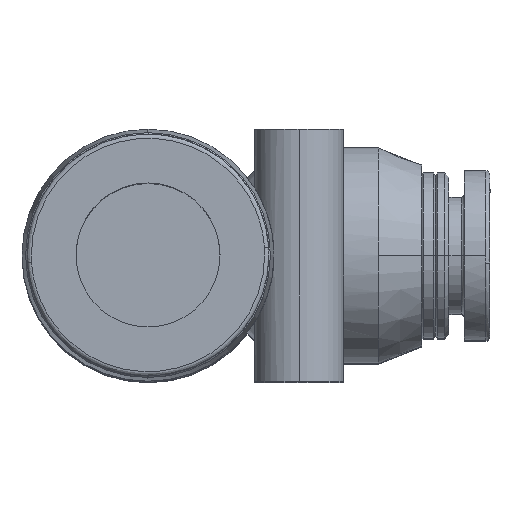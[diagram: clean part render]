
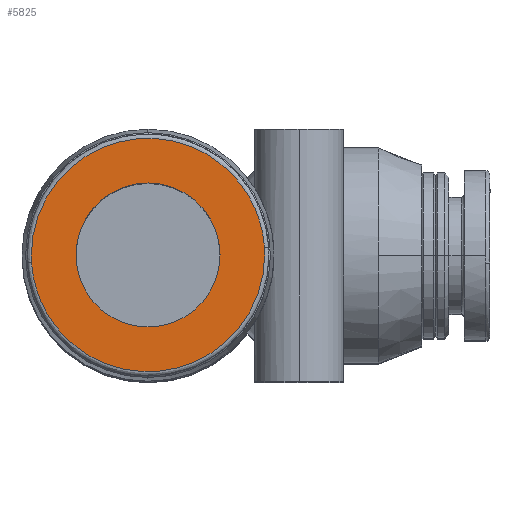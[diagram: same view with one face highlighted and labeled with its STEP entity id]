
A CAD part, top view. The second image highlights one B-rep face of the part: STEP entity #5825.
In plain terms, the highlighted planar face has unit normal (0, 0, 1).
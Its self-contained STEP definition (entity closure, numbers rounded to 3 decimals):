
#34 = DIRECTION ( 'NONE',  ( 1., 0., 0. ) ) ;
#341 = CARTESIAN_POINT ( 'NONE',  ( -8.082, -0.534, 40. ) ) ;
#555 = DIRECTION ( 'NONE',  ( 0., 0., 1. ) ) ;
#617 = CARTESIAN_POINT ( 'NONE',  ( 5., 0., 40. ) ) ;
#631 = CARTESIAN_POINT ( 'NONE',  ( -8.1, 0., 40. ) ) ;
#642 = ORIENTED_EDGE ( 'NONE', *, *, #3544, .F. ) ;
#750 = CARTESIAN_POINT ( 'NONE',  ( 7.081, 15.69, 40. ) ) ;
#932 = ORIENTED_EDGE ( 'NONE', *, *, #6449, .T. ) ;
#1332 =( BOUNDED_CURVE ( )  B_SPLINE_CURVE ( 3, ( #2188, #5015, #6759, #3331 ),
 .UNSPECIFIED., .F., .T. ) 
 B_SPLINE_CURVE_WITH_KNOTS ( ( 4, 4 ),
 ( 0.979, 1. ),
 .UNSPECIFIED. ) 
 CURVE ( )  GEOMETRIC_REPRESENTATION_ITEM ( )  RATIONAL_B_SPLINE_CURVE ( ( 1., 1., 1., 1. ) ) 
 REPRESENTATION_ITEM ( '' )  );
#1622 = CARTESIAN_POINT ( 'NONE',  ( -8.082, -0.534, 40. ) ) ;
#1826 = EDGE_LOOP ( 'NONE', ( #642, #6171, #4415, #2898 ) ) ;
#1854 = VERTEX_POINT ( 'NONE', #341 ) ;
#2178 = CARTESIAN_POINT ( 'NONE',  ( -8.094, -0.356, 40. ) ) ;
#2188 = CARTESIAN_POINT ( 'NONE',  ( 8.082, 0.534, 40. ) ) ;
#2221 = DIRECTION ( 'NONE',  ( 0., 0., -1. ) ) ;
#2238 = ORIENTED_EDGE ( 'NONE', *, *, #5522, .T. ) ;
#2293 = CARTESIAN_POINT ( 'NONE',  ( -5., 0., 40. ) ) ;
#2377 = CARTESIAN_POINT ( 'NONE',  ( -7.081, -15.69, 40. ) ) ;
#2426 = VERTEX_POINT ( 'NONE', #2662 ) ;
#2662 = CARTESIAN_POINT ( 'NONE',  ( 8.1, 0., 40. ) ) ;
#2777 = VERTEX_POINT ( 'NONE', #617 ) ;
#2898 = ORIENTED_EDGE ( 'NONE', *, *, #6399, .F. ) ;
#3306 = DIRECTION ( 'NONE',  ( 0., 0., -1. ) ) ;
#3331 = CARTESIAN_POINT ( 'NONE',  ( 8.1, 0., 40. ) ) ;
#3435 = VERTEX_POINT ( 'NONE', #2293 ) ;
#3460 = CARTESIAN_POINT ( 'NONE',  ( 8.1, 0., 40. ) ) ;
#3544 = EDGE_CURVE ( 'NONE', #2426, #1854, #5036, .T. ) ;
#3738 = FACE_BOUND ( 'NONE', #6238, .T. ) ;
#3801 = VERTEX_POINT ( 'NONE', #4345 ) ;
#3947 = CARTESIAN_POINT ( 'NONE',  ( -8.1, -0.178, 40. ) ) ;
#4058 = CARTESIAN_POINT ( 'NONE',  ( -8.1, 15.189, 40. ) ) ;
#4345 = CARTESIAN_POINT ( 'NONE',  ( 8.082, 0.534, 40. ) ) ;
#4415 = ORIENTED_EDGE ( 'NONE', *, *, #6530, .F. ) ;
#4423 = DIRECTION ( 'NONE',  ( 1., 0., 0. ) ) ;
#4477 = CARTESIAN_POINT ( 'NONE',  ( -8.1, 0., 40. ) ) ;
#4619 = CARTESIAN_POINT ( 'NONE',  ( 8.082, 0.534, 40. ) ) ;
#4980 = CARTESIAN_POINT ( 'NONE',  ( -8.6, 8.6, 40. ) ) ;
#4996 = CIRCLE ( 'NONE', #6917, 5. ) ;
#5015 = CARTESIAN_POINT ( 'NONE',  ( 8.094, 0.356, 40. ) ) ;
#5036 =( BOUNDED_CURVE ( )  B_SPLINE_CURVE ( 3, ( #3460, #6900, #2377, #6350 ),
 .UNSPECIFIED., .F., .F. ) 
 B_SPLINE_CURVE_WITH_KNOTS ( ( 4, 4 ),
 ( 0., 0.979 ),
 .UNSPECIFIED. ) 
 CURVE ( )  GEOMETRIC_REPRESENTATION_ITEM ( )  RATIONAL_B_SPLINE_CURVE ( ( 1., 0.355, 0.355, 1. ) ) 
 REPRESENTATION_ITEM ( '' )  );
#5068 = CIRCLE ( 'NONE', #5782, 5. ) ;
#5077 = FACE_OUTER_BOUND ( 'NONE', #1826, .T. ) ;
#5522 = EDGE_CURVE ( 'NONE', #3435, #2777, #4996, .T. ) ;
#5562 =( BOUNDED_CURVE ( )  B_SPLINE_CURVE ( 3, ( #1622, #2178, #3947, #631 ),
 .UNSPECIFIED., .F., .T. ) 
 B_SPLINE_CURVE_WITH_KNOTS ( ( 4, 4 ),
 ( 0.979, 1. ),
 .UNSPECIFIED. ) 
 CURVE ( )  GEOMETRIC_REPRESENTATION_ITEM ( )  RATIONAL_B_SPLINE_CURVE ( ( 1., 1., 1., 1. ) ) 
 REPRESENTATION_ITEM ( '' )  );
#5602 = CARTESIAN_POINT ( 'NONE',  ( 0., 0., 40. ) ) ;
#5772 = CARTESIAN_POINT ( 'NONE',  ( -8.1, 0., 40. ) ) ;
#5782 = AXIS2_PLACEMENT_3D ( 'NONE', #6750, #3306, #34 ) ;
#5825 = ADVANCED_FACE ( '44', ( #3738, #5077 ), #6740, .T. ) ;
#5836 = EDGE_CURVE ( 'NONE', #3801, #2426, #1332, .T. ) ;
#5870 = VERTEX_POINT ( 'NONE', #4477 ) ;
#6171 = ORIENTED_EDGE ( 'NONE', *, *, #5836, .F. ) ;
#6184 = DIRECTION ( 'NONE',  ( 1., 0., 0. ) ) ;
#6217 =( BOUNDED_CURVE ( )  B_SPLINE_CURVE ( 3, ( #5772, #4058, #750, #4619 ),
 .UNSPECIFIED., .F., .T. ) 
 B_SPLINE_CURVE_WITH_KNOTS ( ( 4, 4 ),
 ( 0., 0.979 ),
 .UNSPECIFIED. ) 
 CURVE ( )  GEOMETRIC_REPRESENTATION_ITEM ( )  RATIONAL_B_SPLINE_CURVE ( ( 1., 0.355, 0.355, 1. ) ) 
 REPRESENTATION_ITEM ( '' )  );
#6238 = EDGE_LOOP ( 'NONE', ( #932, #2238 ) ) ;
#6350 = CARTESIAN_POINT ( 'NONE',  ( -8.082, -0.534, 40. ) ) ;
#6399 = EDGE_CURVE ( 'NONE', #1854, #5870, #5562, .T. ) ;
#6449 = EDGE_CURVE ( 'NONE', #2777, #3435, #5068, .T. ) ;
#6509 = AXIS2_PLACEMENT_3D ( 'NONE', #4980, #555, #4423 ) ;
#6530 = EDGE_CURVE ( 'NONE', #5870, #3801, #6217, .T. ) ;
#6740 = PLANE ( 'NONE',  #6509 ) ;
#6750 = CARTESIAN_POINT ( 'NONE',  ( 0., 0., 40. ) ) ;
#6759 = CARTESIAN_POINT ( 'NONE',  ( 8.1, 0.178, 40. ) ) ;
#6900 = CARTESIAN_POINT ( 'NONE',  ( 8.1, -15.189, 40. ) ) ;
#6917 = AXIS2_PLACEMENT_3D ( 'NONE', #5602, #2221, #6184 ) ;
